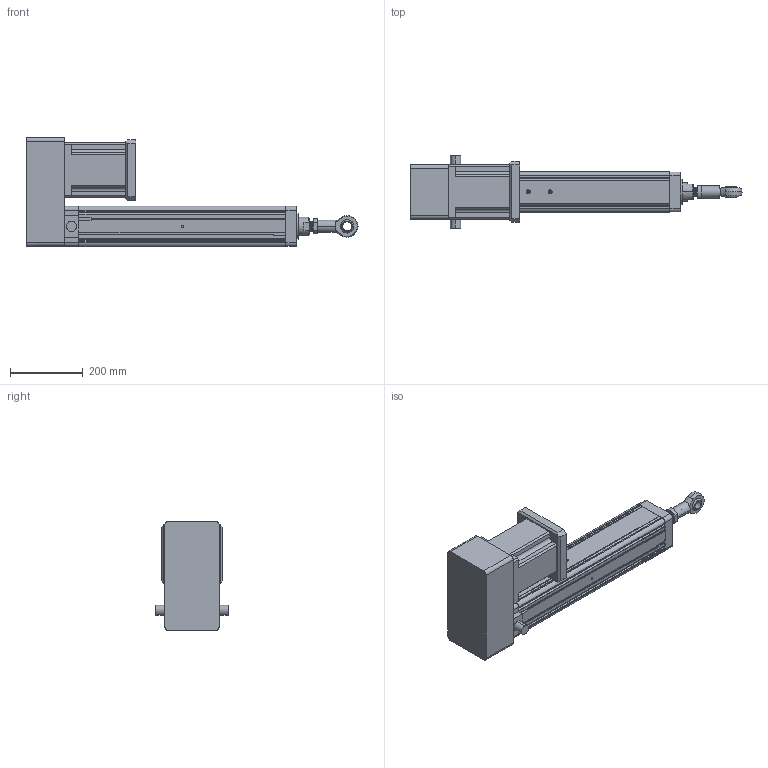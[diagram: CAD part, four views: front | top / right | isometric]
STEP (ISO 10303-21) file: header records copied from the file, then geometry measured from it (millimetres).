
FILE_DESCRIPTION (( 'STEP AP203' ), '1' );
FILE_NAME ('YRJ110-L400-H4K3.STEP', '2020-01-06T01:22:26', ( 'User' ), ( 'China' ), 'SwSTEP 2.0', 'SolidWorks 2016', '' );
FILE_SCHEMA (( 'CONFIG_CONTROL_DESIGN' ));
Length unit declared in the file: millimetre
Products named in the file (11): _BNC01-SI25T_K-R-001; _BNC01-SI25T_K-R-002; BNC01-SI25T_K-R; 095-100俴最倰第; K3-110; 142熬厒儂; YRJ110-L400-H4K3; H5-110-1; H5-110-2; 萇儂碟-110; K1-110
Assembly tree (10 placements, depth 4):
  YRJ110-L400-H4K3
    095-100俴最倰第
    142熬厒儂
    H5-110-1
    H5-110-2
    萇儂碟-110
    K3-110
      K1-110
      BNC01-SI25T_K-R
        _BNC01-SI25T_K-R-001
        _BNC01-SI25T_K-R-002
Bounding box: 915 x 200 x 300.5 mm (x, y, z)
Volume: 12289951.9 mm3; surface area: 1018138.7 mm2
Topology: 8 solids, 8 shells, 401 faces, 1101 edges, 709 vertices
Faces by surface type: plane 187, cylinder 166, cone 34, bspline 14
Entity records: 22833 total; most frequent: CARTESIAN_POINT 11715, ORIENTED_EDGE 2146, DIRECTION 2000, EDGE_CURVE 1073, VERTEX_POINT 709, AXIS2_PLACEMENT_3D 674, VECTOR 652, LINE 652
